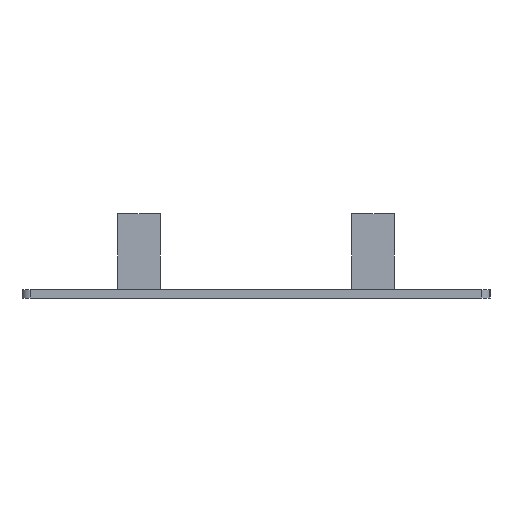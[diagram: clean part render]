
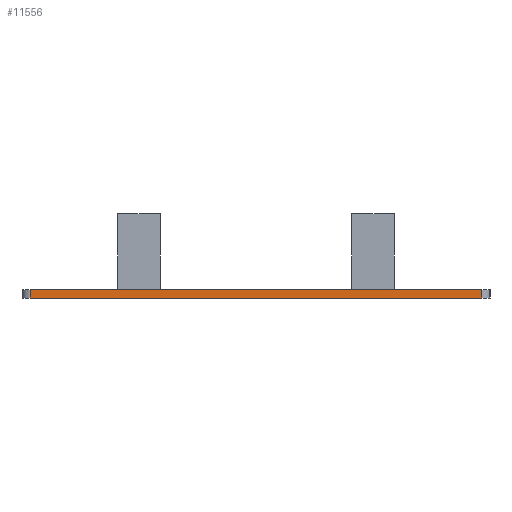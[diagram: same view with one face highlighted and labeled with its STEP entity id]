
A CAD part, left-side view. The second image highlights one B-rep face of the part: STEP entity #11556.
In plain terms, the highlighted planar face has unit normal (-1, 0, 0).
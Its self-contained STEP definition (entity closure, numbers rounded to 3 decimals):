
#44 = PLANE('',#45);
#45 = AXIS2_PLACEMENT_3D('',#46,#47,#48);
#46 = CARTESIAN_POINT('',(41.76,27.84,0.));
#47 = DIRECTION('',(0.,0.,1.));
#48 = DIRECTION('',(1.,0.,-0.));
#72 = CYLINDRICAL_SURFACE('',#73,1.);
#73 = AXIS2_PLACEMENT_3D('',#74,#75,#76);
#74 = CARTESIAN_POINT('',(1.,1.,0.));
#75 = DIRECTION('',(0.,0.,1.));
#76 = DIRECTION('',(0.,-1.,0.));
#100 = PLANE('',#101);
#101 = AXIS2_PLACEMENT_3D('',#102,#103,#104);
#102 = CARTESIAN_POINT('',(41.76,27.84,1.));
#103 = DIRECTION('',(0.,0.,1.));
#104 = DIRECTION('',(1.,0.,-0.));
#142 = VERTEX_POINT('',#143);
#143 = CARTESIAN_POINT('',(0.,1.,0.));
#848 = VERTEX_POINT('',#849);
#849 = CARTESIAN_POINT('',(0.,54.68,0.));
#864 = CYLINDRICAL_SURFACE('',#865,1.);
#865 = AXIS2_PLACEMENT_3D('',#866,#867,#868);
#866 = CARTESIAN_POINT('',(1.,54.68,0.));
#867 = DIRECTION('',(0.,0.,1.));
#868 = DIRECTION('',(-0.,1.,0.));
#876 = EDGE_CURVE('',#848,#142,#877,.T.);
#877 = SURFACE_CURVE('',#878,(#882,#889),.PCURVE_S1.);
#878 = LINE('',#879,#880);
#879 = CARTESIAN_POINT('',(0.,55.68,0.));
#880 = VECTOR('',#881,1.);
#881 = DIRECTION('',(0.,-1.,0.));
#882 = PCURVE('',#44,#883);
#883 = DEFINITIONAL_REPRESENTATION('',(#884),#888);
#884 = LINE('',#885,#886);
#885 = CARTESIAN_POINT('',(-41.76,27.84));
#886 = VECTOR('',#887,1.);
#887 = DIRECTION('',(0.,-1.));
#888 = ( GEOMETRIC_REPRESENTATION_CONTEXT(2) 
PARAMETRIC_REPRESENTATION_CONTEXT() REPRESENTATION_CONTEXT('2D SPACE',''
  ) );
#889 = PCURVE('',#890,#895);
#890 = PLANE('',#891);
#891 = AXIS2_PLACEMENT_3D('',#892,#893,#894);
#892 = CARTESIAN_POINT('',(0.,55.68,0.));
#893 = DIRECTION('',(1.,0.,-0.));
#894 = DIRECTION('',(0.,-1.,0.));
#895 = DEFINITIONAL_REPRESENTATION('',(#896),#900);
#896 = LINE('',#897,#898);
#897 = CARTESIAN_POINT('',(0.,0.));
#898 = VECTOR('',#899,1.);
#899 = DIRECTION('',(1.,0.));
#900 = ( GEOMETRIC_REPRESENTATION_CONTEXT(2) 
PARAMETRIC_REPRESENTATION_CONTEXT() REPRESENTATION_CONTEXT('2D SPACE',''
  ) );
#8244 = EDGE_CURVE('',#142,#8245,#8247,.T.);
#8245 = VERTEX_POINT('',#8246);
#8246 = CARTESIAN_POINT('',(0.,1.,1.));
#8247 = SURFACE_CURVE('',#8248,(#8252,#8259),.PCURVE_S1.);
#8248 = LINE('',#8249,#8250);
#8249 = CARTESIAN_POINT('',(0.,1.,0.));
#8250 = VECTOR('',#8251,1.);
#8251 = DIRECTION('',(0.,0.,1.));
#8252 = PCURVE('',#72,#8253);
#8253 = DEFINITIONAL_REPRESENTATION('',(#8254),#8258);
#8254 = LINE('',#8255,#8256);
#8255 = CARTESIAN_POINT('',(-1.571,0.));
#8256 = VECTOR('',#8257,1.);
#8257 = DIRECTION('',(-0.,1.));
#8258 = ( GEOMETRIC_REPRESENTATION_CONTEXT(2) 
PARAMETRIC_REPRESENTATION_CONTEXT() REPRESENTATION_CONTEXT('2D SPACE',''
  ) );
#8259 = PCURVE('',#890,#8260);
#8260 = DEFINITIONAL_REPRESENTATION('',(#8261),#8265);
#8261 = LINE('',#8262,#8263);
#8262 = CARTESIAN_POINT('',(54.68,-0.));
#8263 = VECTOR('',#8264,1.);
#8264 = DIRECTION('',(0.,-1.));
#8265 = ( GEOMETRIC_REPRESENTATION_CONTEXT(2) 
PARAMETRIC_REPRESENTATION_CONTEXT() REPRESENTATION_CONTEXT('2D SPACE',''
  ) );
#8603 = VERTEX_POINT('',#8604);
#8604 = CARTESIAN_POINT('',(0.,54.68,1.));
#8626 = EDGE_CURVE('',#8603,#8245,#8627,.T.);
#8627 = SURFACE_CURVE('',#8628,(#8632,#8639),.PCURVE_S1.);
#8628 = LINE('',#8629,#8630);
#8629 = CARTESIAN_POINT('',(0.,55.68,1.));
#8630 = VECTOR('',#8631,1.);
#8631 = DIRECTION('',(0.,-1.,0.));
#8632 = PCURVE('',#100,#8633);
#8633 = DEFINITIONAL_REPRESENTATION('',(#8634),#8638);
#8634 = LINE('',#8635,#8636);
#8635 = CARTESIAN_POINT('',(-41.76,27.84));
#8636 = VECTOR('',#8637,1.);
#8637 = DIRECTION('',(0.,-1.));
#8638 = ( GEOMETRIC_REPRESENTATION_CONTEXT(2) 
PARAMETRIC_REPRESENTATION_CONTEXT() REPRESENTATION_CONTEXT('2D SPACE',''
  ) );
#8639 = PCURVE('',#890,#8640);
#8640 = DEFINITIONAL_REPRESENTATION('',(#8641),#8645);
#8641 = LINE('',#8642,#8643);
#8642 = CARTESIAN_POINT('',(0.,-1.));
#8643 = VECTOR('',#8644,1.);
#8644 = DIRECTION('',(1.,0.));
#8645 = ( GEOMETRIC_REPRESENTATION_CONTEXT(2) 
PARAMETRIC_REPRESENTATION_CONTEXT() REPRESENTATION_CONTEXT('2D SPACE',''
  ) );
#11556 = ADVANCED_FACE('',(#11557),#890,.F.);
#11557 = FACE_BOUND('',#11558,.F.);
#11558 = EDGE_LOOP('',(#11559,#11560,#11581,#11582));
#11559 = ORIENTED_EDGE('',*,*,#876,.F.);
#11560 = ORIENTED_EDGE('',*,*,#11561,.T.);
#11561 = EDGE_CURVE('',#848,#8603,#11562,.T.);
#11562 = SURFACE_CURVE('',#11563,(#11567,#11574),.PCURVE_S1.);
#11563 = LINE('',#11564,#11565);
#11564 = CARTESIAN_POINT('',(0.,54.68,0.));
#11565 = VECTOR('',#11566,1.);
#11566 = DIRECTION('',(0.,0.,1.));
#11567 = PCURVE('',#890,#11568);
#11568 = DEFINITIONAL_REPRESENTATION('',(#11569),#11573);
#11569 = LINE('',#11570,#11571);
#11570 = CARTESIAN_POINT('',(1.,-0.));
#11571 = VECTOR('',#11572,1.);
#11572 = DIRECTION('',(0.,-1.));
#11573 = ( GEOMETRIC_REPRESENTATION_CONTEXT(2) 
PARAMETRIC_REPRESENTATION_CONTEXT() REPRESENTATION_CONTEXT('2D SPACE',''
  ) );
#11574 = PCURVE('',#864,#11575);
#11575 = DEFINITIONAL_REPRESENTATION('',(#11576),#11580);
#11576 = LINE('',#11577,#11578);
#11577 = CARTESIAN_POINT('',(1.571,0.));
#11578 = VECTOR('',#11579,1.);
#11579 = DIRECTION('',(0.,1.));
#11580 = ( GEOMETRIC_REPRESENTATION_CONTEXT(2) 
PARAMETRIC_REPRESENTATION_CONTEXT() REPRESENTATION_CONTEXT('2D SPACE',''
  ) );
#11581 = ORIENTED_EDGE('',*,*,#8626,.T.);
#11582 = ORIENTED_EDGE('',*,*,#8244,.F.);
